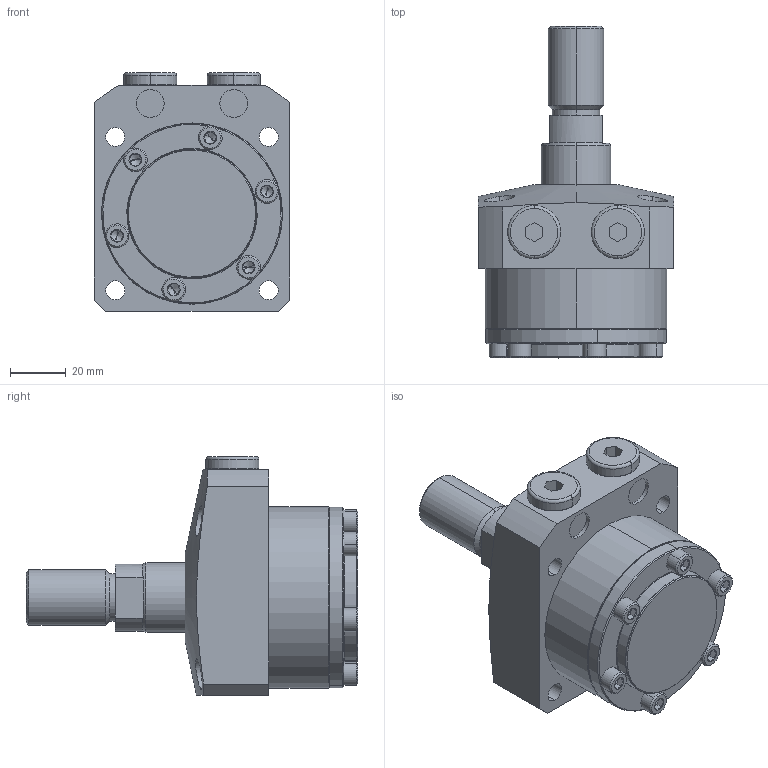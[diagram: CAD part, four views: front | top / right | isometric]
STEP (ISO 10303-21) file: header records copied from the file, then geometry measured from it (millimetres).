
FILE_DESCRIPTION (( 'STEP AP203' ), '1' );
FILE_NAME ('680650-CT-015.step', '2016-11-02T03:26:00', ( 'wxp' ), ( '' ), 'SwSTEP 2.0', 'SolidWorks 2011', '' );
FILE_SCHEMA (( 'CONFIG_CONTROL_DESIGN' ));
Length unit declared in the file: millimetre
Products named in the file (6): 680650-CT-015; 葩璃 680650-CA-15-12^680650-CT-015; 葩璃 68065-CA-15-5^680650-CT-015; 葩璃 68065-CA-15-4^680650-CT-015; 葩璃 68065-CA-15-3^680650-CT-015; 葩璃 68065-CA-15-1^680650-CT-015
Assembly tree (11 placements, depth 2):
  680650-CT-015
    葩璃 68065-CA-15-4^680650-CT-015  x6
    葩璃 68065-CA-15-1^680650-CT-015
    葩璃 680650-CA-15-12^680650-CT-015
    葩璃 68065-CA-15-5^680650-CT-015  x2
    葩璃 68065-CA-15-3^680650-CT-015
Bounding box: 70 x 119 x 85.5 mm (x, y, z)
Volume: 261432 mm3; surface area: 46673.2 mm2
Topology: 11 solids, 11 shells, 344 faces, 672 edges, 367 vertices
Faces by surface type: plane 139, cone 96, cylinder 93, torus 16
Entity records: 5646 total; most frequent: CARTESIAN_POINT 1184, DIRECTION 853, ORIENTED_EDGE 692, AXIS2_PLACEMENT_3D 356, EDGE_CURVE 346, VERTEX_POINT 210, EDGE_LOOP 200, CIRCLE 179
